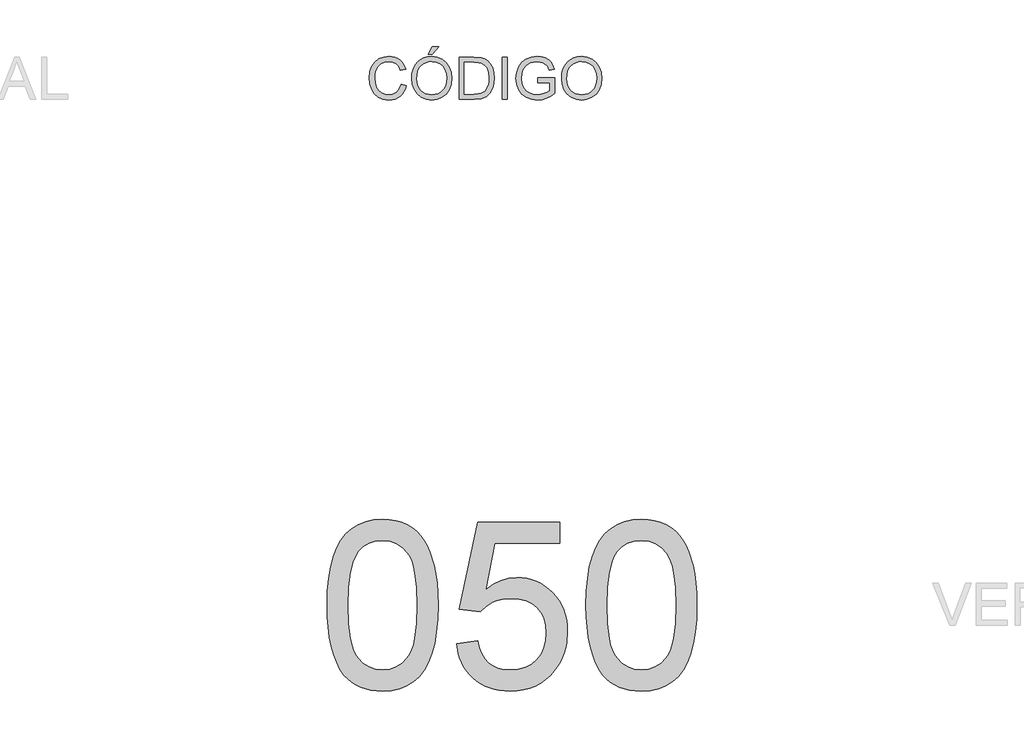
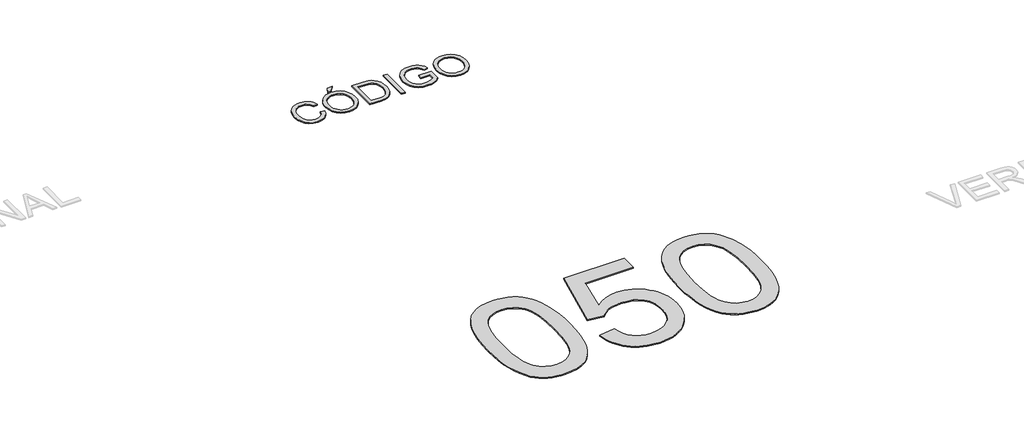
# One storey, part 25 of 35: 2 proxies.
"""IFC4 building model written with IfcOpenShell, lengths in millimetres."""

from ifc_helpers import new_model, si_unit, origin, origin_with_axes, place, context, project, spatial, polyline, outline, extrude, element, save

model = new_model("IFC4")

# Units and contexts
model_context = context("Model", 3, world=origin())
ifc_project = project(units=[si_unit("LENGTHUNIT", "METRE", prefix="MILLI")], contexts=[model_context])

# Site, building, storey
site = spatial("IfcSite", under=ifc_project)
building = spatial("IfcBuilding", under=site)
storey = spatial("IfcBuildingStorey", under=building, Name="Marelli - Linha YOU - Planta Baixa", Elevation=0.0)

# Proxies
placement = place(None, origin())
element("IfcBuildingElementProxy", 1, Name="1200mm Arial", ObjectType="1200mm Arial", at=placement, inside=storey, context=model_context, shape_type="SweptSolid", body=[
    extrude(outline(polyline([(-25228.2202746, -19887.5405438), (-25225.4519626, -19786.1798571), (-25217.1470265, -19694.5864374), (-25203.3054665, -19612.7602846), (-25183.9272824, -19540.7013988), (-25159.0952477, -19477.8211688), (-25128.8921359, -19423.5309833), (-25093.317947, -19377.8308425), (-25052.3726809, -19340.7207462), (-25005.918382, -19312.0075565), (-24953.8170944, -19291.4981353), (-24896.0688182, -19279.1924825), (-24832.6735534, -19275.0905983), (-24785.032835, -19277.5186194), (-24739.8201378, -19284.8026829), (-24697.0354618, -19296.9427888), (-24656.6788069, -19313.938937), (-24619.7250605, -19335.5060189), (-24587.1491098, -19361.3589261), (-24558.9509549, -19391.4976586), (-24535.1305957, -19425.9222163), (-24514.4924157, -19464.4946435), (-24495.8407986, -19507.0769844), (-24464.4972526, -19604.2714076), (-24452.5226937, -19661.4310726), (-24443.9694373, -19727.6958169), (-24438.8374834, -19803.0656407), (-24437.1268322, -19887.5405438), (-24439.867553, -19988.2574371), (-24448.0897156, -20079.3910043), (-24461.7933199, -20160.9412456), (-24480.978366, -20232.9081609), (-24505.6172626, -20295.8159821), (-24535.6824187, -20350.188941), (-24571.1738342, -20396.0270376), (-24612.0915091, -20433.3302719), (-24658.6009903, -20462.2365997), (-24710.8678248, -20482.8839766), (-24768.8920125, -20495.2724028), (-24832.6735534, -20499.4018782), (-24875.3478648, -20497.6084535), (-24915.6677315, -20492.2281793), (-24953.6331534, -20483.2610557), (-24989.2441305, -20470.7070826), (-25022.5006629, -20454.5662601), (-25053.4027505, -20434.8385881), (-25081.9503933, -20411.5240666), (-25108.1435914, -20384.6226957), (-25136.286564, -20342.0265592), (-25160.6771403, -20293.8478134), (-25181.3153202, -20240.0864583), (-25198.2011038, -20180.742494), (-25211.334491, -20115.8159204), (-25220.7154819, -20045.3067375), (-25226.3440764, -19969.2149453), (-25228.2202746, -19887.5405438)]), holes=[polyline([(-25077.5358094, -19887.2462382), (-25073.1212254, -20018.2398197), (-25059.8774736, -20124.2726077), (-25049.9446597, -20167.9287043), (-25037.8045539, -20205.3446024), (-25023.4571561, -20236.5203023), (-25006.9024663, -20261.4558037), (-24969.5256556, -20299.6327578), (-24928.0285665, -20326.9020107), (-24882.4111991, -20343.2635624), (-24832.6735534, -20348.717413), (-24782.9359076, -20343.2451683), (-24737.3185402, -20326.8284343), (-24695.8214512, -20299.4672109), (-24658.4446405, -20261.1614981), (-24641.8899507, -20236.1662158), (-24627.5425529, -20204.9583263), (-24615.402447, -20167.5378296), (-24605.4696332, -20123.9047257), (-24592.2258813, -20018.0006964), (-24587.8112974, -19887.2462382), (-24592.0787285, -19759.7199446), (-24604.881022, -19655.5541577), (-24614.482742, -19612.2314542), (-24626.2181777, -19574.7488774), (-24640.0873289, -19543.1064273), (-24656.0901957, -19517.3041039), (-24692.841607, -19477.2601487), (-24734.8169427, -19448.6573236), (-24782.0162026, -19431.4956285), (-24834.4393869, -19425.7750635), (-24883.9195153, -19430.8150468), (-24928.7643305, -19445.9349968), (-24968.9738326, -19471.1349135), (-25004.5480215, -19506.4147968), (-25021.6545343, -19534.9624397), (-25036.4801787, -19568.954736), (-25049.0249547, -19608.3916859), (-25059.2888624, -19653.2732893), (-25072.9740726, -19759.3704567), (-25077.5358094, -19887.2462382)])]), origin_with_axes(), (0.0, 0.0, 1.0), 10.0),
    extrude(outline(polyline([(-24305.2779251, -20160.3618315), (-24154.5934599, -20141.5262733), (-24143.3362708, -20189.967135), (-24126.9287338, -20231.9884559), (-24105.3708489, -20267.590236), (-24078.6626161, -20296.7724753), (-24046.8592176, -20319.4983855), (-24010.0158358, -20335.7311786), (-23968.1324706, -20345.4708544), (-23921.2091221, -20348.717413), (-23863.8195309, -20344.2016615), (-23813.1989683, -20330.654407), (-23769.3474345, -20308.0756496), (-23732.2649294, -20276.4653891), (-23702.7791875, -20237.3871242), (-23681.7179433, -20192.4043532), (-23669.0811967, -20141.5170763), (-23664.8689479, -20084.7252933), (-23668.8144823, -20031.0513102), (-23680.6510855, -19983.3370154), (-23700.3787575, -19941.5824089), (-23727.9974983, -19905.7874908), (-23763.5992783, -19877.0743011), (-23807.2760682, -19856.5648798), (-23859.0278679, -19844.2592271), (-23918.8546774, -19840.1573429), (-23957.141996, -19841.7944177), (-23991.9528298, -19846.7056424), (-24023.2871787, -19854.8910168), (-24051.1450428, -19866.3505409), (-24098.4178792, -19896.4432881), (-24135.7579017, -19934.3351336), (-24286.4423669, -19915.4995755), (-24154.5934599, -19293.9261564), (-23570.6911571, -19293.9261564), (-23570.6911571, -19444.6106216), (-24032.7509431, -19444.6106216), (-24097.2038686, -19776.5873341), (-24044.0265262, -19738.4747594), (-23989.5615968, -19711.2514918), (-23933.8090805, -19694.9175312), (-23876.7689771, -19689.4728776), (-23839.3300863, -19691.1605363), (-23803.3857161, -19696.2235123), (-23768.9358665, -19704.6618055), (-23735.9805376, -19716.4754161), (-23704.5197292, -19731.664344), (-23674.5534414, -19750.2285891), (-23646.0816742, -19772.1681516), (-23619.1044277, -19797.4830314), (-23594.5138156, -19825.4512601), (-23573.2019517, -19855.3508693), (-23555.1688362, -19887.1818589), (-23540.4144689, -19920.944229), (-23528.9388499, -19956.6379796), (-23520.7419792, -19994.2631106), (-23515.8238568, -20033.8196222), (-23514.1844827, -20075.3075142), (-23520.0889887, -20153.3720736), (-23527.4696212, -20190.3626082), (-23537.8025067, -20225.9919794), (-23551.0876453, -20260.2601873), (-23567.3250369, -20293.1672317), (-23586.5146814, -20324.7131128), (-23608.656579, -20354.8978305), (-23638.6573557, -20388.7659667), (-23671.2700946, -20418.1183514), (-23706.4947956, -20442.9549846), (-23744.3314588, -20463.2758663), (-23784.7800842, -20479.0809965), (-23827.8406717, -20490.3703752), (-23873.5132214, -20497.1440025), (-23921.7977333, -20499.4018782), (-23999.55879, -20493.5985397), (-24035.6181234, -20486.3443667), (-24069.79666, -20476.1885243), (-24102.0943999, -20463.1310128), (-24132.5113431, -20447.171832), (-24161.0474896, -20428.3109819), (-24187.7028394, -20406.5484626), (-24212.0405327, -20382.3901119), (-24233.6237095, -20356.3417673), (-24252.4523698, -20328.4034291), (-24268.5265138, -20298.5750971), (-24281.8461413, -20266.8567713), (-24292.4112523, -20233.2484518), (-24305.2779251, -20160.3618315)])), origin_with_axes(), (0.0, 0.0, 1.0), 10.0),
    extrude(outline(polyline([(-23382.3355756, -19887.5405438), (-23379.5672636, -19786.1798571), (-23371.2623275, -19694.5864374), (-23357.4207675, -19612.7602846), (-23338.0425834, -19540.7013988), (-23313.2105487, -19477.8211688), (-23283.0074369, -19423.5309833), (-23247.433248, -19377.8308425), (-23206.4879819, -19340.7207462), (-23160.033683, -19312.0075565), (-23107.9323954, -19291.4981353), (-23050.1841192, -19279.1924825), (-22986.7888544, -19275.0905983), (-22939.148136, -19277.5186194), (-22893.9354388, -19284.8026829), (-22851.1507628, -19296.9427888), (-22810.7941079, -19313.938937), (-22773.8403615, -19335.5060189), (-22741.2644108, -19361.3589261), (-22713.0662559, -19391.4976586), (-22689.2458967, -19425.9222163), (-22668.6077167, -19464.4946435), (-22649.9560996, -19507.0769844), (-22618.6125536, -19604.2714076), (-22606.6379947, -19661.4310726), (-22598.0847383, -19727.6958169), (-22592.9527844, -19803.0656407), (-22591.2421332, -19887.5405438), (-22593.982854, -19988.2574371), (-22602.2050166, -20079.3910043), (-22615.9086209, -20160.9412456), (-22635.093667, -20232.9081609), (-22659.7325636, -20295.8159821), (-22689.7977197, -20350.188941), (-22725.2891352, -20396.0270376), (-22766.2068101, -20433.3302719), (-22812.7162913, -20462.2365997), (-22864.9831258, -20482.8839766), (-22923.0073135, -20495.2724028), (-22986.7888544, -20499.4018782), (-23029.4631658, -20497.6084535), (-23069.7830325, -20492.2281793), (-23107.7484544, -20483.2610557), (-23143.3594315, -20470.7070826), (-23176.6159639, -20454.5662601), (-23207.5180515, -20434.8385881), (-23236.0656943, -20411.5240666), (-23262.2588924, -20384.6226957), (-23290.401865, -20342.0265592), (-23314.7924413, -20293.8478134), (-23335.4306212, -20240.0864583), (-23352.3164048, -20180.742494), (-23365.449792, -20115.8159204), (-23374.8307829, -20045.3067375), (-23380.4593774, -19969.2149453), (-23382.3355756, -19887.5405438)]), holes=[polyline([(-23231.6511104, -19887.2462382), (-23227.2365264, -20018.2398197), (-23213.9927746, -20124.2726077), (-23204.0599607, -20167.9287043), (-23191.9198549, -20205.3446024), (-23177.5724571, -20236.5203023), (-23161.0177673, -20261.4558037), (-23123.6409566, -20299.6327578), (-23082.1438675, -20326.9020107), (-23036.5265001, -20343.2635624), (-22986.7888544, -20348.717413), (-22937.0512086, -20343.2451683), (-22891.4338412, -20326.8284343), (-22849.9367522, -20299.4672109), (-22812.5599415, -20261.1614981), (-22796.0052517, -20236.1662158), (-22781.6578539, -20204.9583263), (-22769.517748, -20167.5378296), (-22759.5849342, -20123.9047257), (-22746.3411823, -20018.0006964), (-22741.9265984, -19887.2462382), (-22746.1940295, -19759.7199446), (-22758.996323, -19655.5541577), (-22768.598043, -19612.2314542), (-22780.3334787, -19574.7488774), (-22794.2026299, -19543.1064273), (-22810.2054967, -19517.3041039), (-22846.956908, -19477.2601487), (-22888.9322437, -19448.6573236), (-22936.1315036, -19431.4956285), (-22988.554688, -19425.7750635), (-23038.0348163, -19430.8150468), (-23082.8796315, -19445.9349968), (-23123.0891336, -19471.1349135), (-23158.6633225, -19506.4147968), (-23175.7698353, -19534.9624397), (-23190.5954797, -19568.954736), (-23203.1402557, -19608.3916859), (-23213.4041634, -19653.2732893), (-23227.0893736, -19759.3704567), (-23231.6511104, -19887.2462382)])]), origin_with_axes(), (0.0, 0.0, 1.0), 10.0),
])
element("IfcBuildingElementProxy", 2, Name="300mm Arial", ObjectType="300mm Arial", at=placement, inside=storey, context=model_context, shape_type="SweptSolid", body=[
    extrude(outline(polyline([(-24700.8246463, -16173.4390831), (-24663.15353, -16183.1511677), (-24670.6077389, -16206.5783531), (-24680.5359543, -16227.0486868), (-24692.938176, -16244.5621691), (-24707.8144042, -16259.1187997), (-24724.8289465, -16270.5622291), (-24743.6461105, -16278.7361071), (-24764.2658964, -16283.640434), (-24786.688304, -16285.2752096), (-24830.383488, -16280.3271968), (-24865.0839571, -16265.4831583), (-24891.6818254, -16241.2581289), (-24911.0692065, -16208.1671434), (-24922.9058097, -16169.2636224), (-24926.8513441, -16127.6009865), (-24922.3907749, -16083.6574821), (-24909.0090674, -16045.7104543), (-24887.4051972, -16014.9647166), (-24858.2781402, -15992.6250824), (-24823.7340209, -15979.0226457), (-24785.8789636, -15974.4885001), (-24744.5750126, -15980.3562179), (-24726.6062764, -15987.6908652), (-24710.4263664, -15997.9593714), (-24696.301997, -16010.8904235), (-24684.4998828, -16026.2127086), (-24667.8624195, -16064.0309777), (-24705.5335358, -16073.0072984), (-24718.5933467, -16045.5357104), (-24736.4356234, -16026.6909552), (-24759.2810953, -16015.7924511), (-24787.3504916, -16012.1596164), (-24819.705713, -16016.1879242), (-24846.2851872, -16028.2728478), (-24866.4543176, -16047.1451941), (-24879.5785078, -16071.5357704), (-24886.7797978, -16099.1085259), (-24889.1802278, -16127.5274101), (-24886.3383394, -16162.3290468), (-24877.8126742, -16192.421794), (-24863.2813354, -16216.6560205), (-24842.4224262, -16233.8820949), (-24817.4156476, -16244.1735937), (-24790.4407003, -16247.6040933), (-24758.9959868, -16242.931992), (-24732.7935917, -16228.9156879), (-24713.0107374, -16205.702334), (-24700.8246463, -16173.4390831)])), origin_with_axes(), (0.0, 0.0, 1.0), 10.0),
    extrude(outline(polyline([(-24625.4824137, -16133.8549804), (-24622.9716191, -16098.5061192), (-24615.4392352, -16067.213157), (-24602.8852621, -16039.9760937), (-24585.3096998, -16016.7949295), (-24563.7656105, -15998.2858666), (-24539.3060563, -15985.0651074), (-24511.9310374, -15977.1326519), (-24481.6405536, -15974.4885001), (-24442.1116332, -15979.454907), (-24406.666203, -15994.3541278), (-24377.2356433, -16018.1376988), (-24355.7513348, -16049.7571563), (-24342.6179476, -16087.68579), (-24338.2401519, -16130.3968896), (-24342.8478738, -16173.6782064), (-24356.6710398, -16212.140269), (-24378.9462946, -16243.8149087), (-24408.9102831, -16266.733957), (-24444.0522107, -16280.6398965), (-24481.8612828, -16285.2752096), (-24521.9972084, -16280.1524528), (-24557.6449738, -16264.7841825), (-24587.001957, -16240.5591531), (-24608.2655363, -16208.8661192), (-24621.1781943, -16172.3998164), (-24625.4824137, -16133.8549804)]), holes=[polyline([(-24587.8112974, -16134.2228624), (-24585.9282014, -16159.1974513), (-24580.2789135, -16181.3669401), (-24570.8634337, -16200.7313286), (-24557.681762, -16217.2906169), (-24541.6582018, -16230.5527628), (-24523.7170568, -16240.0257242), (-24503.8583268, -16245.709501), (-24482.082012, -16247.6040933), (-24459.9332166, -16245.6911069), (-24439.8399619, -16239.9521478), (-24421.8022478, -16230.3872159), (-24405.8200744, -16216.9963113), (-24392.7349717, -16200.0875351), (-24383.3884697, -16179.9689885), (-24377.7805685, -16156.6406715), (-24375.9112682, -16130.102584), (-24379.1118415, -16096.7540812), (-24388.7135616, -16067.9305269), (-24404.468108, -16044.358488), (-24426.1271605, -16026.7645316), (-24452.2559792, -16015.8108452), (-24481.4198244, -16012.1596164), (-24502.4396819, -16013.9185522), (-24521.9420261, -16019.1953595), (-24539.9268572, -16027.9900385), (-24556.394175, -16040.302589), (-24570.139166, -16056.7262208), (-24579.9570168, -16077.8541437), (-24585.8477272, -16103.6863575), (-24587.8112974, -16134.2228624)])]), origin_with_axes(), (0.0, 0.0, 1.0), 10.0),
    extrude(outline(polyline([(-24507.7601752, -15960.3618315), (-24479.506838, -15903.855157), (-24432.4179426, -15903.855157), (-24479.506838, -15960.3618315), (-24507.7601752, -15960.3618315)])), origin_with_axes(), (0.0, 0.0, 1.0), 10.0),
    extrude(outline(polyline([(-24286.4423669, -16280.5663201), (-24286.4423669, -15979.1973896), (-24182.4789151, -15979.1973896), (-24128.6945674, -15983.5383972), (-24104.6718731, -15991.9077126), (-24084.4015752, -16005.0962821), (-24063.5610602, -16028.0521186), (-24048.7170217, -16056.5997614), (-24039.8326715, -16090.1873876), (-24036.8712214, -16128.2631741), (-24038.8761783, -16160.6091985), (-24044.8910489, -16189.0740679), (-24054.0513106, -16213.3082943), (-24065.4924406, -16232.9623899), (-24078.6626161, -16248.477813), (-24093.0100139, -16260.2960221), (-24109.4819302, -16269.0608107), (-24129.0256612, -16275.4159721), (-24177.47572, -16280.5663201), (-24286.4423669, -16280.5663201)]), holes=[polyline([(-24248.7712506, -16242.8952038), (-24182.1110331, -16242.8952038), (-24154.5382776, -16241.5340404), (-24133.6241861, -16237.4505502), (-24117.8420485, -16230.8838566), (-24105.6651545, -16222.0730828), (-24092.5777525, -16205.7667134), (-24082.7461062, -16184.6594839), (-24076.5932798, -16158.6594239), (-24074.5423377, -16127.6745629), (-24078.5614485, -16086.6189322), (-24090.6187809, -16056.3054558), (-24108.4334665, -16035.4833349), (-24129.724637, -16022.9017706), (-24151.3928865, -16018.3768221), (-24183.1411027, -16016.8685059), (-24248.7712506, -16016.8685059), (-24248.7712506, -16242.8952038)])]), origin_with_axes(), (0.0, 0.0, 1.0), 10.0),
    extrude(outline(polyline([(-23980.3645469, -16280.5663201), (-23980.3645469, -15979.1973896), (-23942.6934306, -15979.1973896), (-23942.6934306, -16280.5663201), (-23980.3645469, -16280.5663201)])), origin_with_axes(), (0.0, 0.0, 1.0), 10.0),
    extrude(outline(polyline([(-23726.0845119, -16162.8440816), (-23726.0845119, -16125.1729653), (-23603.6533839, -16125.1729653), (-23603.6533839, -16237.8184322), (-23633.4058402, -16258.5117945), (-23664.0963957, -16273.355833), (-23695.6514738, -16282.2953654), (-23727.9974983, -16285.2752096), (-23770.2579425, -16280.5387289), (-23808.4532906, -16266.3292869), (-23840.1831127, -16243.1435241), (-23863.0469787, -16211.4780814), (-23876.8701447, -16173.4942654), (-23881.4778666, -16131.3533828), (-23876.8885388, -16088.9089976), (-23863.1205551, -16049.4260625), (-23840.7441327, -16016.3074859), (-23810.3294888, -15992.9561762), (-23773.2837719, -15979.1054191), (-23731.0141306, -15974.4885001), (-23699.9832843, -15977.1648416), (-23672.079435, -15985.1938661), (-23648.5809725, -15997.9961596), (-23630.7662869, -16014.9923077), (-23617.5869145, -16037.0008481), (-23607.9943914, -16064.8403181), (-23642.7224518, -16074.6259792), (-23650.4755648, -16054.7695485), (-23659.9025409, -16039.7875542), (-23672.3737406, -16028.493577), (-23689.2595242, -16019.7011973), (-23709.3918663, -16014.0450116), (-23731.6027418, -16012.1596164), (-23757.6028018, -16014.1921644), (-23779.8320714, -16020.2898085), (-23798.207777, -16029.6891935), (-23812.6471453, -16041.6269642), (-23832.0345265, -16070.6528536), (-23840.8636944, -16099.0901318), (-23843.8067503, -16129.8082784), (-23840.2658861, -16165.8331228), (-23829.6432935, -16195.4752146), (-23812.2608693, -16218.5230216), (-23788.4405101, -16234.7650117), (-23760.5642519, -16244.3943229), (-23731.0141306, -16247.6040933), (-23704.9221001, -16245.1852692), (-23679.4738631, -16237.9287968), (-23657.3733522, -16227.9316036), (-23641.3245002, -16217.2906169), (-23641.3245002, -16162.8440816), (-23726.0845119, -16162.8440816)])), origin_with_axes(), (0.0, 0.0, 1.0), 10.0),
    extrude(outline(polyline([(-23556.5644885, -16133.8549804), (-23554.0536939, -16098.5061192), (-23546.52131, -16067.213157), (-23533.9673369, -16039.9760937), (-23516.3917746, -16016.7949295), (-23494.8476853, -15998.2858666), (-23470.3881311, -15985.0651074), (-23443.0131122, -15977.1326519), (-23412.7226284, -15974.4885001), (-23373.193708, -15979.454907), (-23337.7482778, -15994.3541278), (-23308.3177182, -16018.1376988), (-23286.8334096, -16049.7571563), (-23273.7000224, -16087.68579), (-23269.3222267, -16130.3968896), (-23273.9299487, -16173.6782064), (-23287.7531146, -16212.140269), (-23310.0283694, -16243.8149087), (-23339.9923579, -16266.733957), (-23375.1342855, -16280.6398965), (-23412.9433576, -16285.2752096), (-23453.0792833, -16280.1524528), (-23488.7270486, -16264.7841825), (-23518.0840318, -16240.5591531), (-23539.3476111, -16208.8661192), (-23552.2602692, -16172.3998164), (-23556.5644885, -16133.8549804)]), holes=[polyline([(-23518.8933722, -16134.2228624), (-23517.0102762, -16159.1974513), (-23511.3609883, -16181.3669401), (-23501.9455085, -16200.7313286), (-23488.7638368, -16217.2906169), (-23472.7402766, -16230.5527628), (-23454.7991316, -16240.0257242), (-23434.9404016, -16245.709501), (-23413.1640868, -16247.6040933), (-23391.0152914, -16245.6911069), (-23370.9220367, -16239.9521478), (-23352.8843226, -16230.3872159), (-23336.9021492, -16216.9963113), (-23323.8170465, -16200.0875351), (-23314.4705445, -16179.9689885), (-23308.8626434, -16156.6406715), (-23306.993343, -16130.102584), (-23310.1939163, -16096.7540812), (-23319.7956364, -16067.9305269), (-23335.5501829, -16044.358488), (-23357.2092353, -16026.7645316), (-23383.338054, -16015.8108452), (-23412.5018992, -16012.1596164), (-23433.5217567, -16013.9185522), (-23453.024101, -16019.1953595), (-23471.008932, -16027.9900385), (-23487.4762498, -16040.302589), (-23501.2212409, -16056.7262208), (-23511.0390916, -16077.8541437), (-23516.929802, -16103.6863575), (-23518.8933722, -16134.2228624)])]), origin_with_axes(), (0.0, 0.0, 1.0), 10.0),
])

save(model, "model.ifc")
